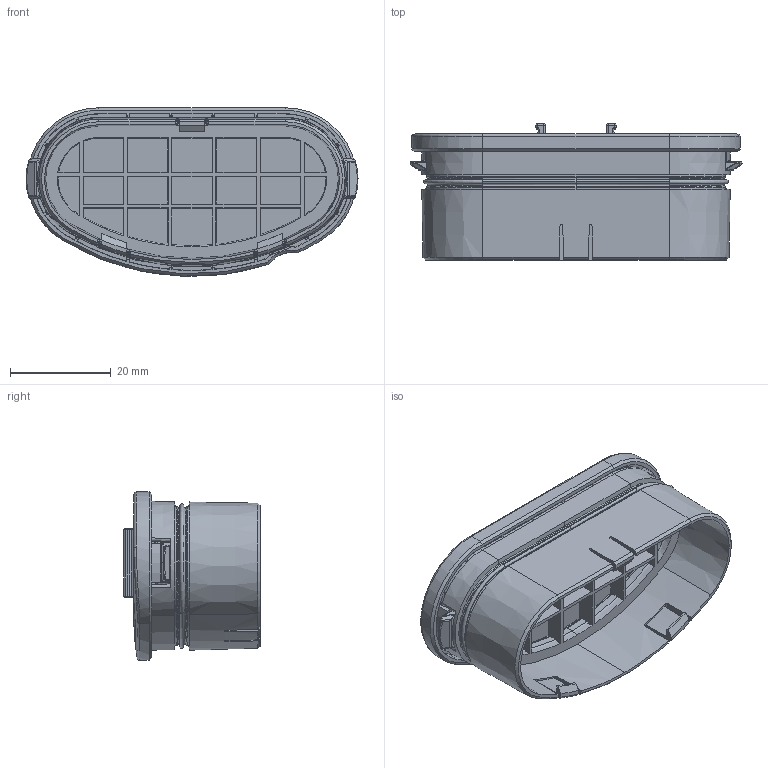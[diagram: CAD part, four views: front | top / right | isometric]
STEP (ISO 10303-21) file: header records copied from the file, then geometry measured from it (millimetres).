
FILE_DESCRIPTION (( 'STEP AP214' ), '1' );
FILE_NAME ('1.Battery pack-door.STEP', '2025-09-25T06:24:27', ( '' ), ( '' ), 'SwSTEP 2.0', 'SolidWorks 2016', '' );
FILE_SCHEMA (( 'AUTOMOTIVE_DESIGN' ));
Length unit declared in the file: millimetre
Products named in the file (5): 1.Battery pack-door; 37906-Battery door-cover; 37914-Battery door-base; 37913-Battery door-silicone; 37911-Battery door-lock
Assembly tree (5 placements, depth 2):
  1.Battery pack-door
    37914-Battery door-base
    37906-Battery door-cover
    37911-Battery door-lock  x2
    37913-Battery door-silicone
Bounding box: 66.02 x 27.1 x 33.5 mm (x, y, z)
Volume: 11441.5 mm3; surface area: 21031.4 mm2
Topology: 5 solids, 5 shells, 1212 faces, 3032 edges, 1804 vertices
Faces by surface type: plane 433, cylinder 276, cone 187, bspline 125, torus 101, sphere 90
Entity records: 33630 total; most frequent: CARTESIAN_POINT 8807, ORIENTED_EDGE 4928, DIRECTION 4602, EDGE_CURVE 2464, AXIS2_PLACEMENT_3D 1724, VERTEX_POINT 1509, VECTOR 1154, LINE 1154
